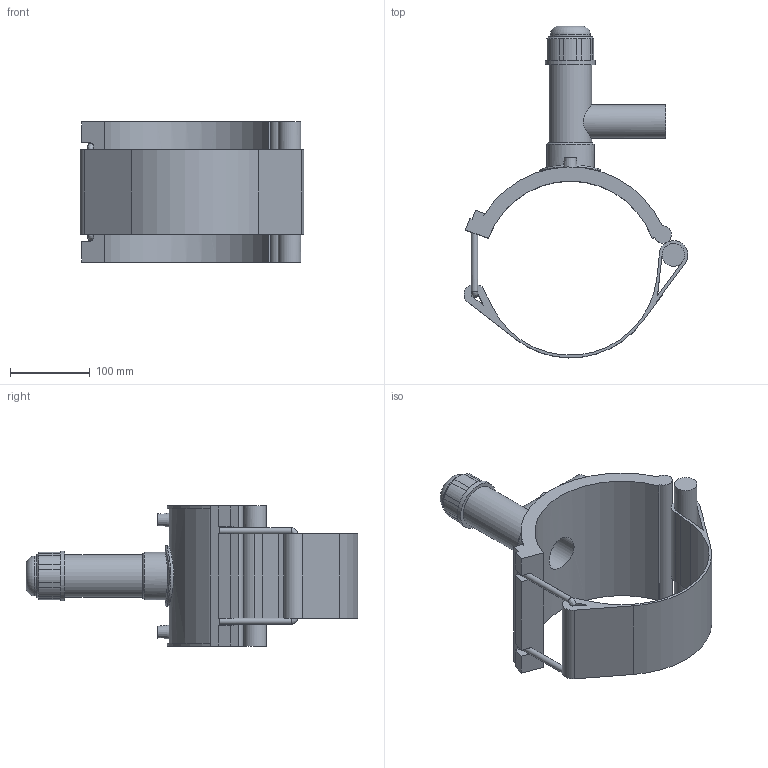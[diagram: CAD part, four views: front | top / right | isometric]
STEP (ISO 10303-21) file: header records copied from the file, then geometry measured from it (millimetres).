
FILE_DESCRIPTION(/* description */ ('PLASSON HIGH VOLUME TAPPING TEE 8''''IPS x 1 1/4''''IPS'),/* implementation_level */ '2;1');
FILE_NAME(/* name */ 'C:\Dropbox\KIMPROJECTS-Inventor 2019\99-16-3568-Processing Inch\ASTM ElectroFusion 2021\5913B\5913BB03080013.ipt.stp',/* time_stamp */ '2021-08-30T09:50:34+03:00',/* author */ ('KIM'),/* organization */ (''),/* preprocessor_version */ 'ST-DEVELOPER v17.2',/* originating_system */ 'Autodesk Inventor 2019',/* authorisation */ '');
FILE_SCHEMA (('AUTOMOTIVE_DESIGN { 1 0 10303 214 3 1 1 }'));
Length unit declared in the file: millimetre
Products named in the file (1): 5913BB03080013
Bounding box: 280.96 x 416.78 x 176.02 mm (x, y, z)
Volume: 1542718.9 mm3; surface area: 331752.7 mm2
Topology: 1 solids, 1 shells, 126 faces, 333 edges, 210 vertices
Faces by surface type: plane 69, cylinder 42, cone 11, bspline 3, torus 1
Full cylindrical faces by diameter (mm): 4 x2, 7.873 x2, 10 x2, 28.431 x1, 33.68 x1, 42.1 x1, 43.937 x1, 50.214 x1, 53.352 x1, 59.629 x1, 62.767 x1, 76.545 x1
Entity records: 4532 total; most frequent: CARTESIAN_POINT 1296, DIRECTION 678, ORIENTED_EDGE 664, EDGE_CURVE 332, AXIS2_PLACEMENT_3D 245, VERTEX_POINT 210, LINE 188, VECTOR 188
